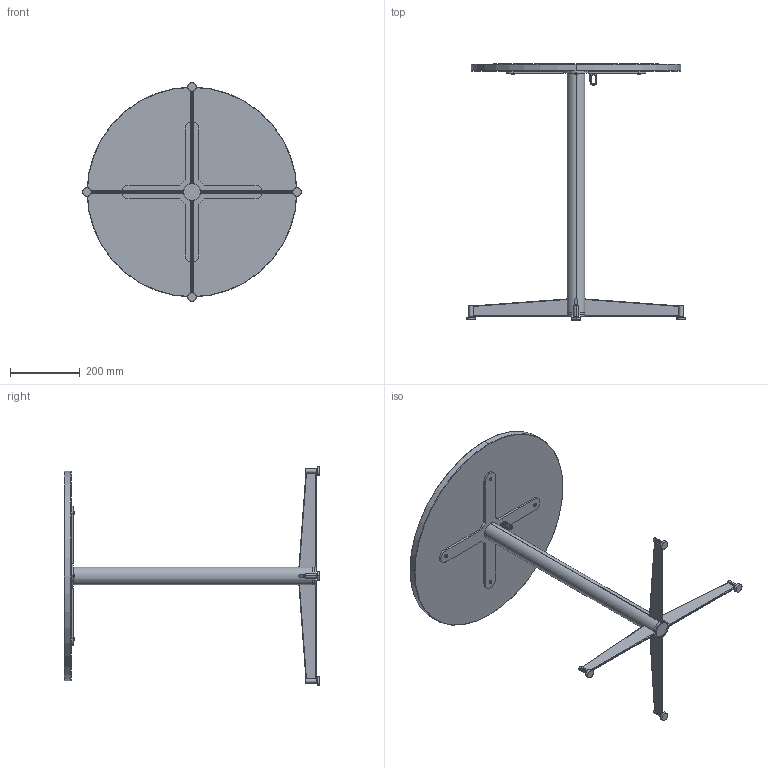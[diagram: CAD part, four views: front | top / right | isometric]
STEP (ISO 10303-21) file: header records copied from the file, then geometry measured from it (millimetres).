
FILE_DESCRIPTION (( 'STEP AP214' ), '1' );
FILE_NAME ('Nook Dining Table Ø60 marble wood.STEP', '2025-07-30T08:17:07', ( '' ), ( '' ), 'SwSTEP 2.0', 'SolidWorks 2024', '' );
FILE_SCHEMA (( 'AUTOMOTIVE_DESIGN' ));
Length unit declared in the file: millimetre
Products named in the file (10): Nook Tabletop Ø60x2; 085A214_R01 Nook Table inner thread stud; SF257M627S-Ackurat; 085A201_R01 Nook Dining Table X Plate Steel; 085A206_R01 Nook Dining Table Wire Attachment; socket button head screw_iso_ISO 7380 - M6 x 12 - 12N; Nook Dining Table Ø60 marble wood; 085A106_R01 Nook Dining Table X Plate Assembly Steel; 085A205_R01 Nook Dining Table Leg Joint Steel; 085A206_R01 Nook Table Leg 6mm Steel test
Assembly tree (21 placements, depth 3):
  Nook Dining Table Ø60 marble wood
    085A205_R01 Nook Dining Table Leg Joint Steel
    085A206_R01 Nook Table Leg 6mm Steel test  x4
    085A214_R01 Nook Table inner thread stud  x4
    085A106_R01 Nook Dining Table X Plate Assembly Steel
      085A201_R01 Nook Dining Table X Plate Steel
      085A206_R01 Nook Dining Table Wire Attachment
    SF257M627S-Ackurat  x4
    socket button head screw_iso_ISO 7380 - M6 x 12 - 12N  x4
    Nook Tabletop Ø60x2
Bounding box: 625 x 731 x 625 mm (x, y, z)
Volume: 6291965.9 mm3; surface area: 1004526.9 mm2
Topology: 20 solids, 20 shells, 574 faces, 1456 edges, 936 vertices
Faces by surface type: cylinder 342, plane 144, cone 36, torus 32, bspline 12, sphere 8
Entity records: 11175 total; most frequent: CARTESIAN_POINT 5943, ORIENTED_EDGE 1054, DIRECTION 1040, EDGE_CURVE 527, AXIS2_PLACEMENT_3D 406, VERTEX_POINT 339, EDGE_LOOP 234, VECTOR 228
